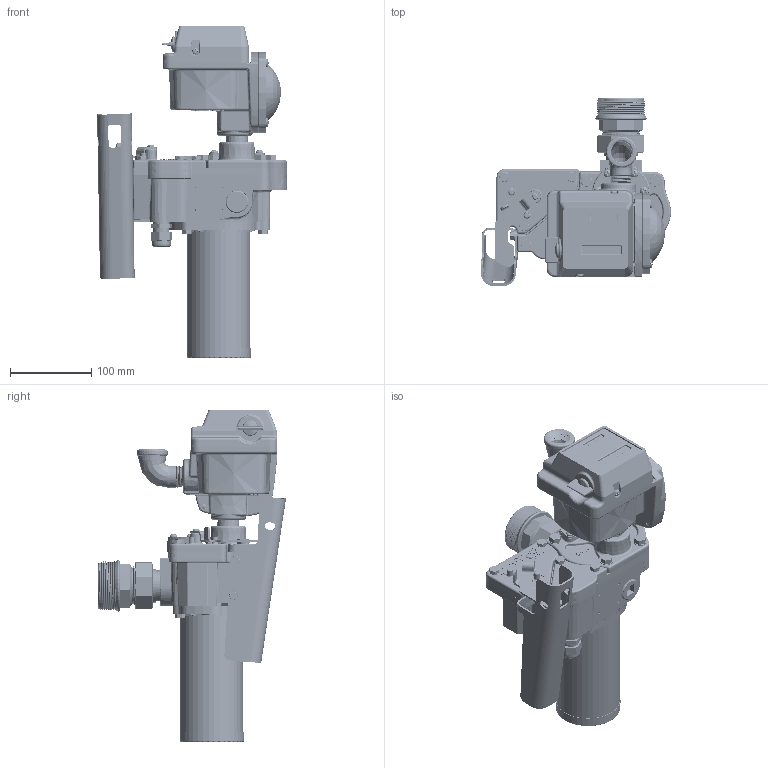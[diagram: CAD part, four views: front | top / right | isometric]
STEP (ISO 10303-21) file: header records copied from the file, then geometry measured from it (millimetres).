
FILE_DESCRIPTION(/* description */ (''),/* implementation_level */ '2;1');
FILE_NAME(/* name */ 'G:\PUBLIC\MKTG\Laura\WEBSITE PUMP MODEL STP\M-150S-AU_FM-200-G8N.stp',/* time_stamp */ '2017-06-20T13:09:03-05:00',/* author */ ('gdonbak'),/* organization */ (''),/* preprocessor_version */ 'ST-DEVELOPER v16.5',/* originating_system */ 'Autodesk Inventor 2017',/* authorisation */ '');
FILE_SCHEMA (('AUTOMOTIVE_DESIGN { 1 0 10303 214 3 1 1 }'));
Length unit declared in the file: inch
Products named in the file (1): M-150S-AU_FM-200-G8N
Bounding box: 233.45 x 231.23 x 408.33 mm (x, y, z)
Surface area: 669436.8 mm2 (no closed solid volume)
Topology: 0 solids, 49 shells, 9116 faces, 23488 edges, 14733 vertices
Faces by surface type: plane 3514, cylinder 2011, bspline 1910, torus 844, cone 701, sphere 136
Full cylindrical faces by diameter (mm): 1.383 x1, 1.542 x1, 2.184 x4, 2.705 x1, 3.048 x1, 3.797 x1, 3.962 x4, 3.988 x2, 4.369 x1, 4.445 x2, 4.496 x2, 4.559 x1, 4.826 x4, 4.902 x1, 5.105 x56, 5.207 x4, 5.728 x2, 6.299 x1, 6.35 x19, 6.388 x1, 6.528 x24, 6.54 x9, 6.604 x2, 6.985 x3, 7.137 x3, 7.938 x4, 8.001 x2, 8.204 x1, 8.331 x2, 8.433 x14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
Entity records: 390746 total; most frequent: CARTESIAN_POINT 178759, ORIENTED_EDGE 44054, DIRECTION 38634, EDGE_CURVE 22026, VERTEX_POINT 14079, AXIS2_PLACEMENT_3D 13713, LINE 11208, VECTOR 11208
